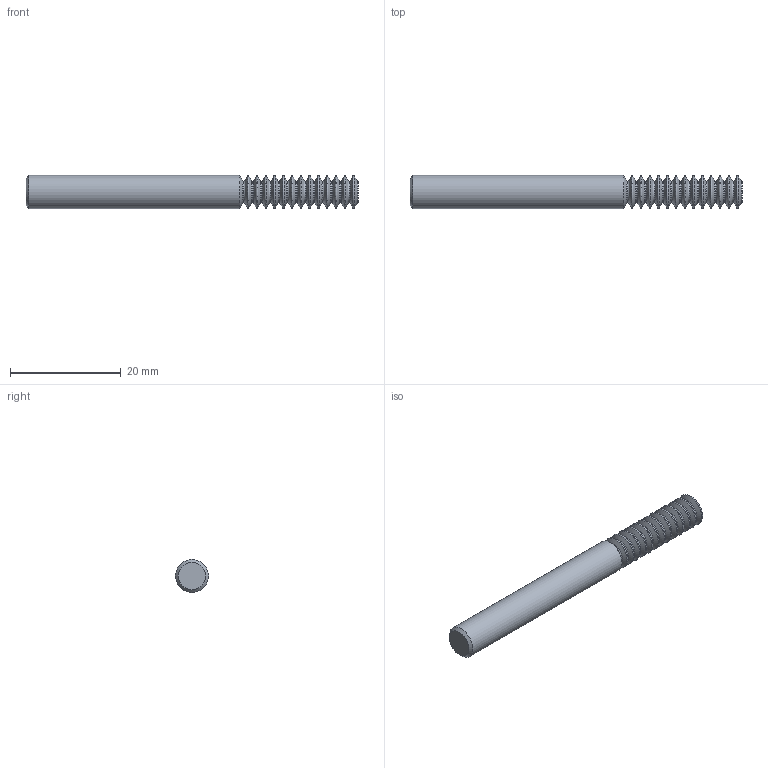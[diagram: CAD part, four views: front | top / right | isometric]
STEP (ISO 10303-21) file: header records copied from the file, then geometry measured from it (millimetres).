
FILE_DESCRIPTION(/* description */ (''),/* implementation_level */ '2;1');
FILE_NAME(/* name */ '00031723-TDM',/* time_stamp */ '2024-02-20T08:30:17+01:00',/* author */ (''),/* organization */ (''),/* preprocessor_version */ 'ST-DEVELOPER v16.5',/* originating_system */ 'HiCAD 2017 2201.0 Build 268',/* authorisation */ '');
FILE_SCHEMA (('AUTOMOTIVE_DESIGN { 1 0 10303 214 1 1 1 1 }'));
Length unit declared in the file: millimetre
Products named in the file (3): Root; ROTATIONSTEIL_0
Assembly tree (2 placements, depth 3):
  Root
    ROTATIONSTEIL_0
      ROTATIONSTEIL_0
Bounding box: 60 x 6 x 6 mm (x, y, z)
Volume: 1488.2 mm3; surface area: 1352.4 mm2
Topology: 2 solids, 2 shells, 88 faces, 172 edges, 88 vertices
Faces by surface type: torus 40, cone 28, cylinder 16, plane 4
Full cylindrical faces by diameter (mm): 3.886 x15, 6 x1
Entity records: 2664 total; most frequent: DIRECTION 356, CARTESIAN_POINT 264, AXIS2_PLACEMENT_3D 178, PRESENTATION_STYLE_ASSIGNMENT 174, COLOUR_RGB 174, DRAUGHTING_PRE_DEFINED_CURVE_FONT 172, CURVE_STYLE 172, OVER_RIDING_STYLED_ITEM 172
